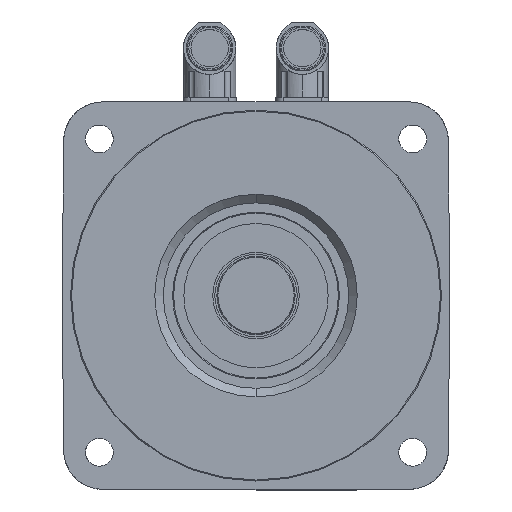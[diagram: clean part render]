
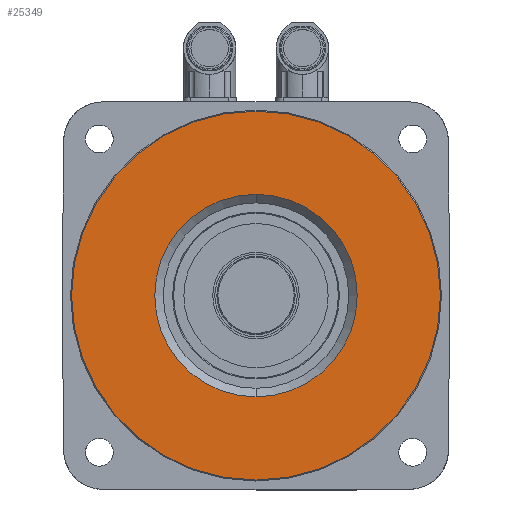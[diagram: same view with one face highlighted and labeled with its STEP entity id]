
A CAD part, top view. The second image highlights one B-rep face of the part: STEP entity #25349.
In plain terms, the highlighted planar face has unit normal (0, 0, 1).
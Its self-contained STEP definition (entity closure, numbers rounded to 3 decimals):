
#9804 = CARTESIAN_POINT ( 'NONE',  ( 0., -49.127, 2.9 ) ) ;
#9805 = DIRECTION ( 'NONE',  ( 0., 1., 0. ) ) ;
#9806 = DIRECTION ( 'NONE',  ( 0., 0., -1. ) ) ;
#9807 = CARTESIAN_POINT ( 'NONE',  ( 0., 0., 2.9 ) ) ;
#9808 = AXIS2_PLACEMENT_3D ( 'NONE', #9807, #9806, #9805 ) ;
#9809 = CIRCLE ( 'NONE', #9808, 49.127 ) ;
#9863 = CARTESIAN_POINT ( 'NONE',  ( 0., 49.127, 2.9 ) ) ;
#11716 = CIRCLE ( 'NONE', #11781, 89.5 ) ;
#11778 = DIRECTION ( 'NONE',  ( 1., 0., 0. ) ) ;
#11779 = DIRECTION ( 'NONE',  ( 0., 0., 1. ) ) ;
#11780 = CARTESIAN_POINT ( 'NONE',  ( 0., 0., 2.9 ) ) ;
#11781 = AXIS2_PLACEMENT_3D ( 'NONE', #11780, #11779, #11778 ) ;
#11979 = CARTESIAN_POINT ( 'NONE',  ( -89.5, 0., 2.9 ) ) ;
#11980 = CARTESIAN_POINT ( 'NONE',  ( 89.5, 0., 2.9 ) ) ;
#13829 = DIRECTION ( 'NONE',  ( 1., 0., 0. ) ) ;
#13830 = DIRECTION ( 'NONE',  ( 0., 0., 1. ) ) ;
#13831 = AXIS2_PLACEMENT_3D ( 'NONE', #13840, #13830, #13829 ) ;
#13838 = FACE_BOUND ( 'NONE', #25407, .T. ) ;
#13839 = FACE_OUTER_BOUND ( 'NONE', #25350, .T. ) ;
#13840 = CARTESIAN_POINT ( 'NONE',  ( 0., 40.462, 2.9 ) ) ;
#13842 = PLANE ( 'NONE',  #13831 ) ;
#13886 = DIRECTION ( 'NONE',  ( 0., 1., 0. ) ) ;
#13887 = DIRECTION ( 'NONE',  ( 0., 0., -1. ) ) ;
#13888 = CARTESIAN_POINT ( 'NONE',  ( 0., 0., 2.9 ) ) ;
#13889 = AXIS2_PLACEMENT_3D ( 'NONE', #13888, #13887, #13886 ) ;
#13896 = CIRCLE ( 'NONE', #13889, 49.127 ) ;
#13918 = DIRECTION ( 'NONE',  ( 1., 0., 0. ) ) ;
#13919 = DIRECTION ( 'NONE',  ( 0., 0., 1. ) ) ;
#13920 = AXIS2_PLACEMENT_3D ( 'NONE', #13927, #13919, #13918 ) ;
#13921 = CIRCLE ( 'NONE', #13920, 89.5 ) ;
#13927 = CARTESIAN_POINT ( 'NONE',  ( 0., 0., 2.9 ) ) ;
#23800 = EDGE_CURVE ( 'NONE', #23801, #23832, #9809, .T. ) ;
#23801 = VERTEX_POINT ( 'NONE', #9804 ) ;
#23832 = VERTEX_POINT ( 'NONE', #9863 ) ;
#24407 = EDGE_CURVE ( 'NONE', #24506, #24507, #11716, .T. ) ;
#24506 = VERTEX_POINT ( 'NONE', #11980 ) ;
#24507 = VERTEX_POINT ( 'NONE', #11979 ) ;
#25349 = ADVANCED_FACE ( 'NONE', ( #13839, #13838 ), #13842, .T. ) ;
#25350 = EDGE_LOOP ( 'NONE', ( #25404, #25406 ) ) ;
#25374 = EDGE_CURVE ( 'NONE', #23832, #23801, #13896, .T. ) ;
#25404 = ORIENTED_EDGE ( 'NONE', *, *, #25405, .T. ) ;
#25405 = EDGE_CURVE ( 'NONE', #24507, #24506, #13921, .T. ) ;
#25406 = ORIENTED_EDGE ( 'NONE', *, *, #24407, .T. ) ;
#25407 = EDGE_LOOP ( 'NONE', ( #25408, #25409 ) ) ;
#25408 = ORIENTED_EDGE ( 'NONE', *, *, #23800, .T. ) ;
#25409 = ORIENTED_EDGE ( 'NONE', *, *, #25374, .T. ) ;
